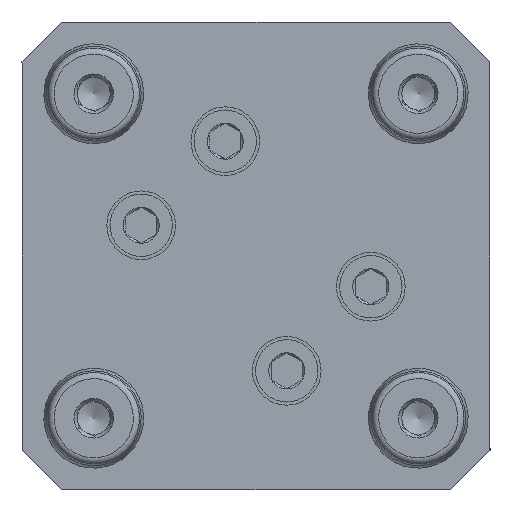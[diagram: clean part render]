
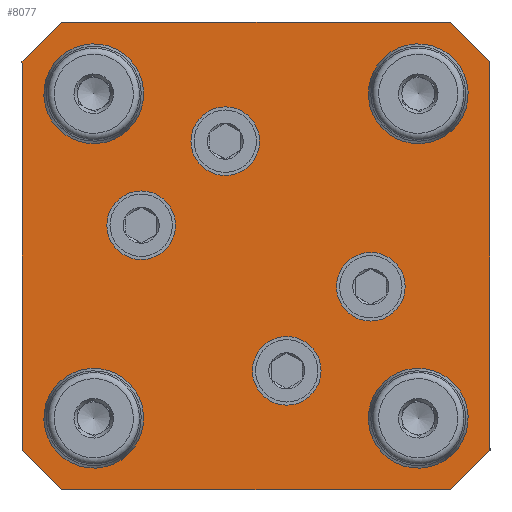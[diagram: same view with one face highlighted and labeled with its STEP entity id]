
A CAD part, front view. The second image highlights one B-rep face of the part: STEP entity #8077.
In plain terms, the highlighted planar face has unit normal (0, -1, 0) as drawn and (0, 0, -1) by its records, which use the part's own axes.
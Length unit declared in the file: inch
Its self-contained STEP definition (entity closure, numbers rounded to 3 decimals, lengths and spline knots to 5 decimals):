
#4 = CARTESIAN_POINT ( 'NONE',  ( 1.47638, 1.22638, 0. ) ) ;
#44 = DIRECTION ( 'NONE',  ( -0.707, 0.707, 0. ) ) ;
#130 = ORIENTED_EDGE ( 'NONE', *, *, #1523, .F. ) ;
#148 = DIRECTION ( 'NONE',  ( 1., 0., 0. ) ) ;
#224 = ORIENTED_EDGE ( 'NONE', *, *, #7768, .F. ) ;
#322 = CIRCLE ( 'NONE', #8914, 0.23655 ) ;
#347 = CARTESIAN_POINT ( 'NONE',  ( 1.22638, 1.47638, 0. ) ) ;
#466 = EDGE_CURVE ( 'NONE', #9162, #9162, #526, .T. ) ;
#526 = CIRCLE ( 'NONE', #8074, 0.23655 ) ;
#535 = FACE_BOUND ( 'NONE', #3193, .T. ) ;
#537 = EDGE_CURVE ( 'NONE', #772, #6128, #4403, .T. ) ;
#632 = DIRECTION ( 'NONE',  ( 0., 0., -1. ) ) ;
#772 = VERTEX_POINT ( 'NONE', #3130 ) ;
#1080 = CARTESIAN_POINT ( 'NONE',  ( -1.02362, -1.02362, 0. ) ) ;
#1222 = DIRECTION ( 'NONE',  ( -1., 0., 0. ) ) ;
#1415 = VERTEX_POINT ( 'NONE', #9471 ) ;
#1448 = AXIS2_PLACEMENT_3D ( 'NONE', #10288, #3778, #1849 ) ;
#1454 = CIRCLE ( 'NONE', #8830, 0.21654 ) ;
#1462 = CARTESIAN_POINT ( 'NONE',  ( -0.19411, 0.72444, 0. ) ) ;
#1523 = EDGE_CURVE ( 'NONE', #10562, #10562, #6062, .T. ) ;
#1849 = DIRECTION ( 'NONE',  ( -1., 0., 0. ) ) ;
#1859 = VERTEX_POINT ( 'NONE', #4426 ) ;
#1864 = ORIENTED_EDGE ( 'NONE', *, *, #3818, .F. ) ;
#1940 = CARTESIAN_POINT ( 'NONE',  ( -1.22638, 1.47638, 0. ) ) ;
#1977 = DIRECTION ( 'NONE',  ( -1., 0., 0. ) ) ;
#2053 = EDGE_LOOP ( 'NONE', ( #6601 ) ) ;
#2089 = LINE ( 'NONE', #347, #9544 ) ;
#2142 = VERTEX_POINT ( 'NONE', #9772 ) ;
#2178 = EDGE_CURVE ( 'NONE', #9976, #9976, #8459, .T. ) ;
#2318 = EDGE_LOOP ( 'NONE', ( #9235 ) ) ;
#2500 = EDGE_CURVE ( 'NONE', #6128, #8072, #10615, .T. ) ;
#2561 = DIRECTION ( 'NONE',  ( -1., 0., 0. ) ) ;
#2582 = EDGE_LOOP ( 'NONE', ( #3305 ) ) ;
#2707 = CARTESIAN_POINT ( 'NONE',  ( -0.02242, -0.72444, 0. ) ) ;
#2948 = DIRECTION ( 'NONE',  ( 0., 0., -1. ) ) ;
#3023 = ORIENTED_EDGE ( 'NONE', *, *, #4288, .F. ) ;
#3081 = PLANE ( 'NONE',  #10227 ) ;
#3108 = EDGE_CURVE ( 'NONE', #4108, #4108, #322, .T. ) ;
#3130 = CARTESIAN_POINT ( 'NONE',  ( -1.22638, 1.47638, 0. ) ) ;
#3132 = FACE_BOUND ( 'NONE', #9805, .T. ) ;
#3193 = EDGE_LOOP ( 'NONE', ( #8237 ) ) ;
#3208 = CIRCLE ( 'NONE', #7310, 0.21654 ) ;
#3305 = ORIENTED_EDGE ( 'NONE', *, *, #4332, .F. ) ;
#3324 = ORIENTED_EDGE ( 'NONE', *, *, #4627, .F. ) ;
#3451 = VERTEX_POINT ( 'NONE', #9129 ) ;
#3666 = VECTOR ( 'NONE', #44, 39.37008 ) ;
#3778 = DIRECTION ( 'NONE',  ( 0., 0., -1. ) ) ;
#3818 = EDGE_CURVE ( 'NONE', #2142, #10373, #9803, .T. ) ;
#3827 = EDGE_LOOP ( 'NONE', ( #5927 ) ) ;
#3830 = AXIS2_PLACEMENT_3D ( 'NONE', #10620, #9062, #2561 ) ;
#3873 = CARTESIAN_POINT ( 'NONE',  ( -1.47638, -1.22638, 0. ) ) ;
#3927 = FACE_BOUND ( 'NONE', #7517, .T. ) ;
#4041 = DIRECTION ( 'NONE',  ( 0., 1., 0. ) ) ;
#4108 = VERTEX_POINT ( 'NONE', #6771 ) ;
#4113 = DIRECTION ( 'NONE',  ( 0.707, -0.707, 0. ) ) ;
#4158 = CARTESIAN_POINT ( 'NONE',  ( 0.78707, -1.02362, 0. ) ) ;
#4288 = EDGE_CURVE ( 'NONE', #1859, #1859, #3208, .T. ) ;
#4332 = EDGE_CURVE ( 'NONE', #9268, #9268, #5083, .T. ) ;
#4368 = DIRECTION ( 'NONE',  ( 0., 0., -1. ) ) ;
#4403 = LINE ( 'NONE', #1940, #9814 ) ;
#4426 = CARTESIAN_POINT ( 'NONE',  ( -0.41065, 0.72444, 0. ) ) ;
#4627 = EDGE_CURVE ( 'NONE', #8072, #3451, #9056, .T. ) ;
#4682 = DIRECTION ( 'NONE',  ( 0., 0., -1. ) ) ;
#4849 = CARTESIAN_POINT ( 'NONE',  ( -1.26017, -1.02362, 0. ) ) ;
#4897 = LINE ( 'NONE', #8124, #3666 ) ;
#4902 = CIRCLE ( 'NONE', #7645, 0.23655 ) ;
#5083 = CIRCLE ( 'NONE', #5426, 0.21654 ) ;
#5130 = EDGE_CURVE ( 'NONE', #7554, #2142, #9207, .T. ) ;
#5138 = VECTOR ( 'NONE', #4041, 39.37008 ) ;
#5197 = DIRECTION ( 'NONE',  ( -0.707, -0.707, 0. ) ) ;
#5266 = CARTESIAN_POINT ( 'NONE',  ( 1.47638, -1.22638, 0. ) ) ;
#5426 = AXIS2_PLACEMENT_3D ( 'NONE', #6847, #9392, #1977 ) ;
#5521 = EDGE_LOOP ( 'NONE', ( #9831 ) ) ;
#5525 = FACE_BOUND ( 'NONE', #2053, .T. ) ;
#5538 = VECTOR ( 'NONE', #10508, 39.37008 ) ;
#5579 = ORIENTED_EDGE ( 'NONE', *, *, #2500, .F. ) ;
#5644 = CARTESIAN_POINT ( 'NONE',  ( -1.47638, 1.22638, 0. ) ) ;
#5733 = CARTESIAN_POINT ( 'NONE',  ( 1.47638, 1.22638, 0. ) ) ;
#5808 = CARTESIAN_POINT ( 'NONE',  ( -1.22638, -1.47638, 0. ) ) ;
#5927 = ORIENTED_EDGE ( 'NONE', *, *, #7084, .F. ) ;
#6062 = CIRCLE ( 'NONE', #1448, 0.21654 ) ;
#6118 = EDGE_CURVE ( 'NONE', #10373, #7994, #4897, .T. ) ;
#6128 = VERTEX_POINT ( 'NONE', #6557 ) ;
#6147 = DIRECTION ( 'NONE',  ( -1., 0., 0. ) ) ;
#6283 = FACE_BOUND ( 'NONE', #5521, .T. ) ;
#6368 = DIRECTION ( 'NONE',  ( -1., 0., 0. ) ) ;
#6385 = EDGE_CURVE ( 'NONE', #10231, #10231, #1454, .T. ) ;
#6507 = LINE ( 'NONE', #9045, #9560 ) ;
#6557 = CARTESIAN_POINT ( 'NONE',  ( -1.47638, 1.22638, 0. ) ) ;
#6601 = ORIENTED_EDGE ( 'NONE', *, *, #2178, .F. ) ;
#6771 = CARTESIAN_POINT ( 'NONE',  ( 0.78707, 1.02362, 0. ) ) ;
#6847 = CARTESIAN_POINT ( 'NONE',  ( 0.19411, -0.72444, 0. ) ) ;
#7009 = CARTESIAN_POINT ( 'NONE',  ( -1.02362, 1.02362, 0. ) ) ;
#7084 = EDGE_CURVE ( 'NONE', #1415, #1415, #4902, .T. ) ;
#7133 = ORIENTED_EDGE ( 'NONE', *, *, #7146, .F. ) ;
#7143 = DIRECTION ( 'NONE',  ( -1., 0., 0. ) ) ;
#7146 = EDGE_CURVE ( 'NONE', #7994, #772, #2089, .T. ) ;
#7191 = DIRECTION ( 'NONE',  ( -1., 0., 0. ) ) ;
#7238 = VECTOR ( 'NONE', #9317, 39.37008 ) ;
#7301 = FACE_OUTER_BOUND ( 'NONE', #9728, .T. ) ;
#7310 = AXIS2_PLACEMENT_3D ( 'NONE', #1462, #632, #7191 ) ;
#7517 = EDGE_LOOP ( 'NONE', ( #130 ) ) ;
#7554 = VERTEX_POINT ( 'NONE', #8626 ) ;
#7639 = DIRECTION ( 'NONE',  ( -1., 0., 0. ) ) ;
#7645 = AXIS2_PLACEMENT_3D ( 'NONE', #7009, #8532, #6147 ) ;
#7768 = EDGE_CURVE ( 'NONE', #3451, #7554, #6507, .T. ) ;
#7994 = VERTEX_POINT ( 'NONE', #10283 ) ;
#8072 = VERTEX_POINT ( 'NONE', #3873 ) ;
#8074 = AXIS2_PLACEMENT_3D ( 'NONE', #1080, #4368, #7639 ) ;
#8077 = ADVANCED_FACE ( 'NONE', ( #3132, #3927, #8978, #535, #9637, #9694, #6283, #5525, #7301 ), #3081, .F. ) ;
#8124 = CARTESIAN_POINT ( 'NONE',  ( 1.47638, 1.22638, 0. ) ) ;
#8237 = ORIENTED_EDGE ( 'NONE', *, *, #6385, .F. ) ;
#8309 = ORIENTED_EDGE ( 'NONE', *, *, #6118, .F. ) ;
#8402 = ORIENTED_EDGE ( 'NONE', *, *, #5130, .F. ) ;
#8459 = CIRCLE ( 'NONE', #3830, 0.23655 ) ;
#8532 = DIRECTION ( 'NONE',  ( 0., 0., -1. ) ) ;
#8626 = CARTESIAN_POINT ( 'NONE',  ( 1.22638, -1.47638, 0. ) ) ;
#8668 = CARTESIAN_POINT ( 'NONE',  ( 0.50791, -0.19411, 0. ) ) ;
#8771 = CARTESIAN_POINT ( 'NONE',  ( 0.72444, -0.19411, 0. ) ) ;
#8821 = CARTESIAN_POINT ( 'NONE',  ( 0., 0., 0. ) ) ;
#8830 = AXIS2_PLACEMENT_3D ( 'NONE', #8771, #4682, #7143 ) ;
#8914 = AXIS2_PLACEMENT_3D ( 'NONE', #10523, #2948, #6368 ) ;
#8978 = FACE_BOUND ( 'NONE', #2582, .T. ) ;
#9045 = CARTESIAN_POINT ( 'NONE',  ( 1.22638, -1.47638, 0. ) ) ;
#9056 = LINE ( 'NONE', #5808, #10177 ) ;
#9062 = DIRECTION ( 'NONE',  ( 0., 0., -1. ) ) ;
#9108 = CARTESIAN_POINT ( 'NONE',  ( -0.94098, 0.19411, 0. ) ) ;
#9129 = CARTESIAN_POINT ( 'NONE',  ( -1.22638, -1.47638, 0. ) ) ;
#9162 = VERTEX_POINT ( 'NONE', #4849 ) ;
#9207 = LINE ( 'NONE', #5266, #7238 ) ;
#9235 = ORIENTED_EDGE ( 'NONE', *, *, #466, .F. ) ;
#9268 = VERTEX_POINT ( 'NONE', #2707 ) ;
#9317 = DIRECTION ( 'NONE',  ( 0.707, 0.707, 0. ) ) ;
#9392 = DIRECTION ( 'NONE',  ( 0., 0., -1. ) ) ;
#9471 = CARTESIAN_POINT ( 'NONE',  ( -1.26017, 1.02362, 0. ) ) ;
#9544 = VECTOR ( 'NONE', #1222, 39.37008 ) ;
#9560 = VECTOR ( 'NONE', #148, 39.37008 ) ;
#9582 = DIRECTION ( 'NONE',  ( 0., 0., 1. ) ) ;
#9637 = FACE_BOUND ( 'NONE', #2318, .T. ) ;
#9694 = FACE_BOUND ( 'NONE', #3827, .T. ) ;
#9728 = EDGE_LOOP ( 'NONE', ( #224, #3324, #5579, #10003, #7133, #8309, #1864, #8402 ) ) ;
#9772 = CARTESIAN_POINT ( 'NONE',  ( 1.47638, -1.22638, 0. ) ) ;
#9803 = LINE ( 'NONE', #5733, #5138 ) ;
#9805 = EDGE_LOOP ( 'NONE', ( #3023 ) ) ;
#9814 = VECTOR ( 'NONE', #5197, 39.37008 ) ;
#9831 = ORIENTED_EDGE ( 'NONE', *, *, #3108, .F. ) ;
#9976 = VERTEX_POINT ( 'NONE', #4158 ) ;
#10003 = ORIENTED_EDGE ( 'NONE', *, *, #537, .F. ) ;
#10177 = VECTOR ( 'NONE', #4113, 39.37008 ) ;
#10227 = AXIS2_PLACEMENT_3D ( 'NONE', #8821, #9582, #10386 ) ;
#10231 = VERTEX_POINT ( 'NONE', #8668 ) ;
#10283 = CARTESIAN_POINT ( 'NONE',  ( 1.22638, 1.47638, 0. ) ) ;
#10288 = CARTESIAN_POINT ( 'NONE',  ( -0.72444, 0.19411, 0. ) ) ;
#10373 = VERTEX_POINT ( 'NONE', #4 ) ;
#10386 = DIRECTION ( 'NONE',  ( 1., 0., 0. ) ) ;
#10508 = DIRECTION ( 'NONE',  ( 0., -1., 0. ) ) ;
#10523 = CARTESIAN_POINT ( 'NONE',  ( 1.02362, 1.02362, 0. ) ) ;
#10562 = VERTEX_POINT ( 'NONE', #9108 ) ;
#10615 = LINE ( 'NONE', #5644, #5538 ) ;
#10620 = CARTESIAN_POINT ( 'NONE',  ( 1.02362, -1.02362, 0. ) ) ;
